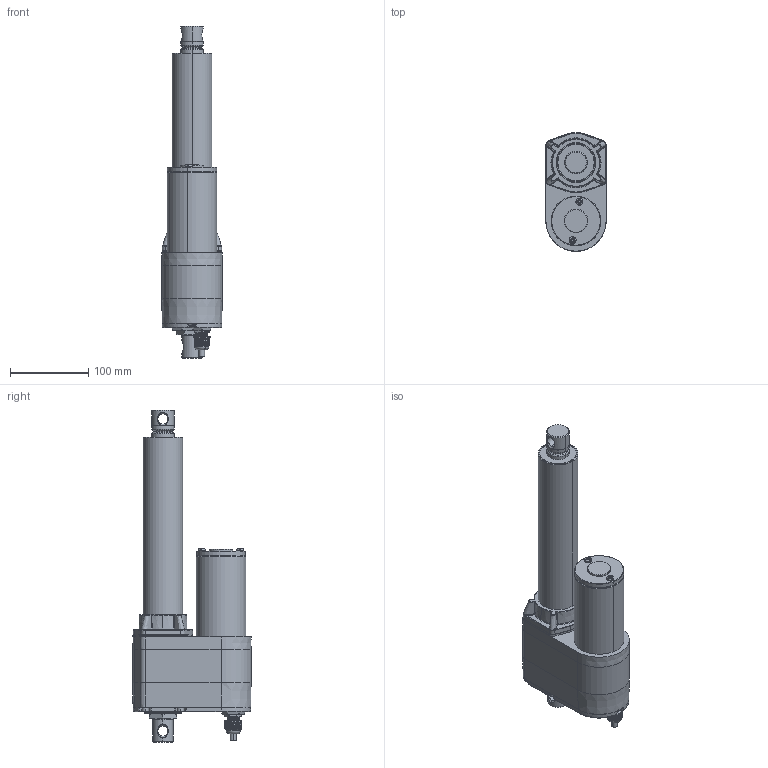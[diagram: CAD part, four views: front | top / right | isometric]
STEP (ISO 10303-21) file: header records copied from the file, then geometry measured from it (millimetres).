
FILE_DESCRIPTION (( 'STEP AP203' ), '1' );
FILE_NAME ('ID10-B-102-LT-IP69K.STEP', '2022-10-05T00:59:28', ( '' ), ( '' ), 'SwSTEP 2.0', 'SolidWorks 2020', '' );
FILE_SCHEMA (( 'CONFIG_CONTROL_DESIGN' ));
Length unit declared in the file: millimetre
Products named in the file (3): ID10-B-102-LT-IP69K; ID10-B-LT-2-IP69K; ID10-B-LT-1-IP69K
Assembly tree (2 placements, depth 2):
  ID10-B-102-LT-IP69K
    ID10-B-LT-1-IP69K
    ID10-B-LT-2-IP69K
Bounding box: 77.3 x 151.8 x 424.5 mm (x, y, z)
Volume: 116174.4 mm3; surface area: 184257.8 mm2
Topology: 23 solids, 24 shells, 2295 faces, 5914 edges, 3703 vertices
Faces by surface type: plane 1108, cylinder 661, bspline 259, cone 137, torus 106, sphere 24
Entity records: 83163 total; most frequent: CARTESIAN_POINT 31124, ORIENTED_EDGE 11760, DIRECTION 9750, EDGE_CURVE 5880, VERTEX_POINT 3703, AXIS2_PLACEMENT_3D 3616, LINE 2518, VECTOR 2518
